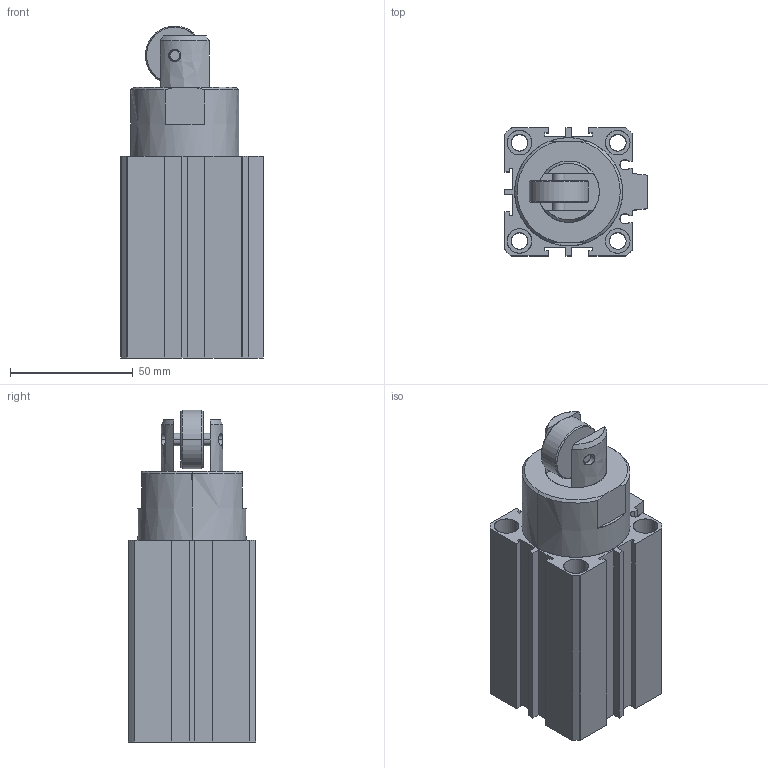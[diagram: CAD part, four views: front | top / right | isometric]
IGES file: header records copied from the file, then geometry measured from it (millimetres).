
Start section: SolidWorks IGES file using analytic representation for surfaces
Global section: file name: C:\Documents and Settings\admin\Bureau\stage de yaya\Plan Philippe Pince\PINCE\VUSB\pièces en 3D\VUSB STEP\ELOC-3DWG\ELOC-40-30-TIGE ENTREE.IGS; native system: SolidWorks 2007; preprocessor: SolidWorks 2007; author: admin; date: 080331.085723; units: millimetre
Bounding box: 58 x 52 x 135.2 mm (x, y, z)
Surface area: 57303.7 mm2 (no closed solid volume)
Topology: 0 solids, 0 shells, 848 faces, 10538 edges, 10576 vertices
Faces by surface type: bspline 775, revolution 73
